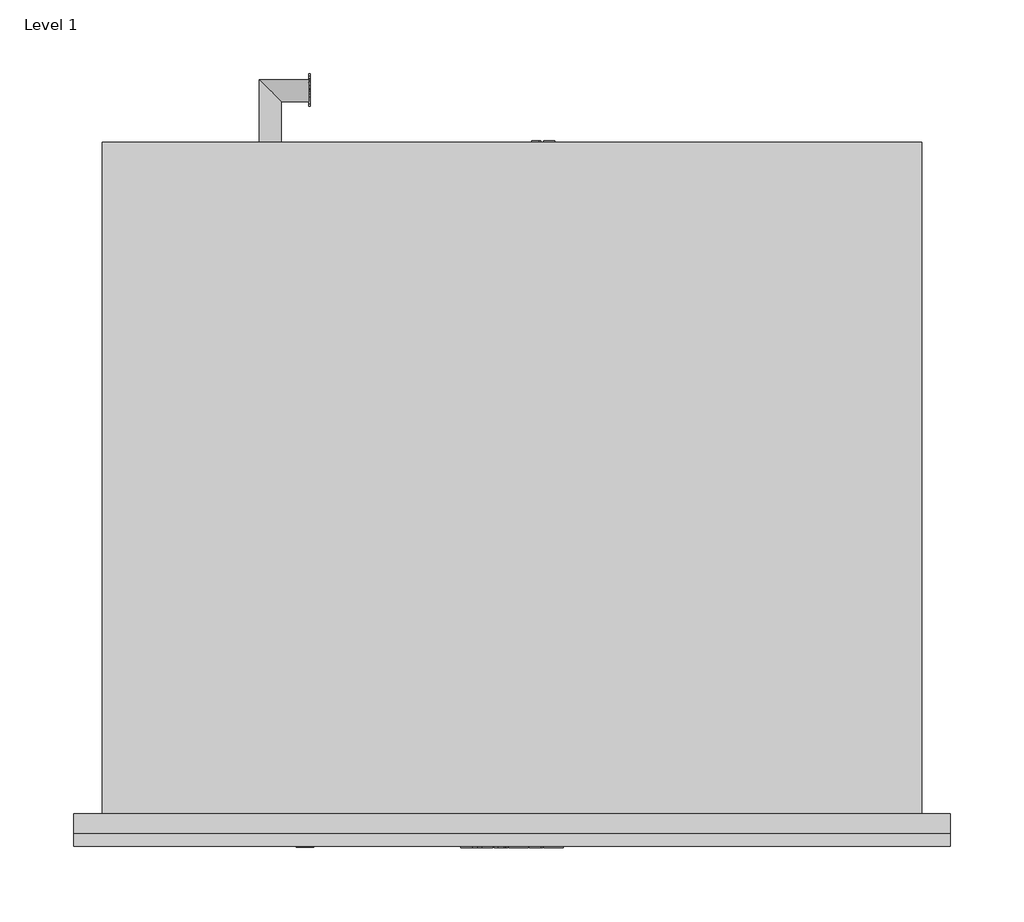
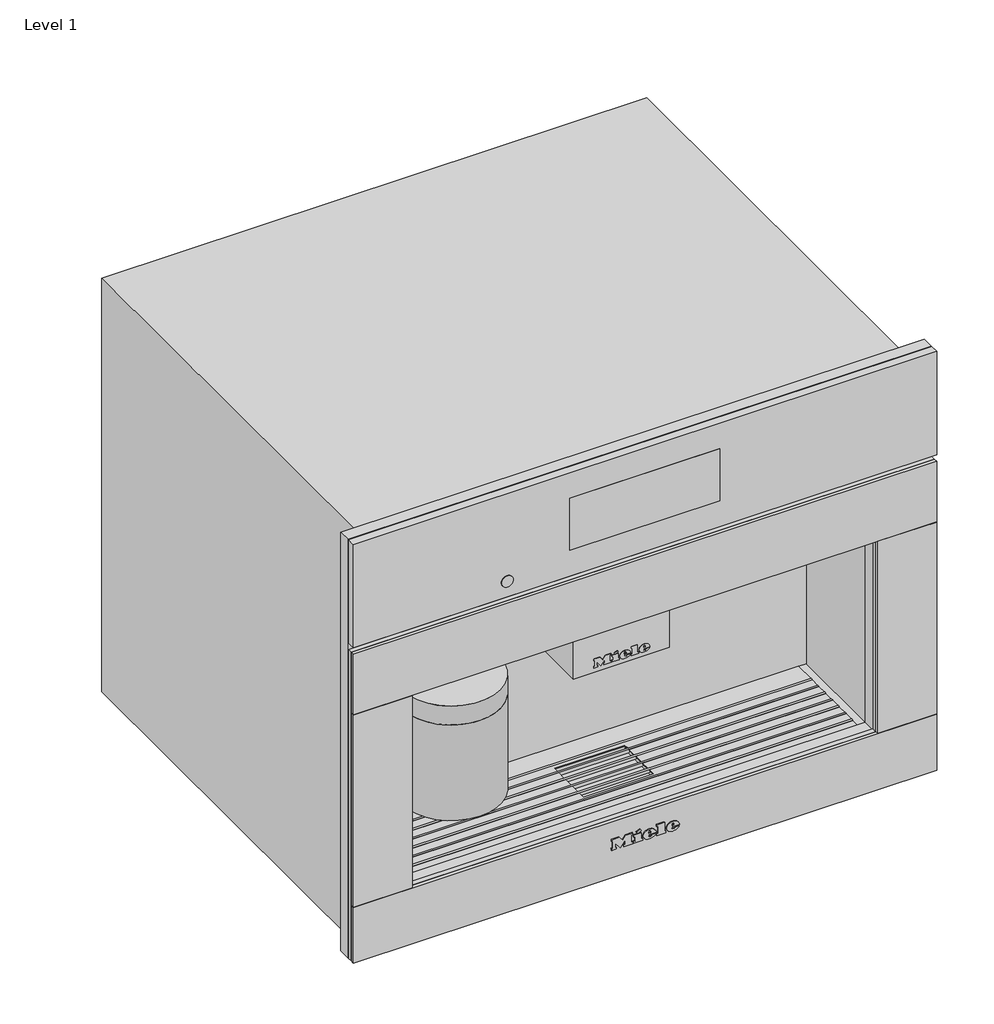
# One storey: 1 proxy.
"""IFC4 building model written with IfcOpenShell, lengths in millimetres."""

from ifc_helpers import new_model, si_unit, origin, place, context, project, spatial, transform, mapped, element, save
from components import specialty_equipment_ed553445

model = new_model("IFC4")

# Units and contexts
model_context = context("Model", 3, world=origin())
ifc_project = project(units=[si_unit("LENGTHUNIT", "METRE", prefix="MILLI")], contexts=[model_context])

# Site, building, storey
site = spatial("IfcSite", under=ifc_project)
building = spatial("IfcBuilding", under=site)
storey = spatial("IfcBuildingStorey", under=building, Name="Level 1", Elevation=0.0)

# Proxy
placement = place(None, origin())
specialty_equipment_shape = specialty_equipment_ed553445(model_context)
element("IfcBuildingElementProxy", 1, Name="11733910_CDN_CVA7845_GRGR : 29784530_CDN_11733910_CVA7845_GRGR", ObjectType="11733910_CDN_CVA7845_GRGR : 29784530_CDN_11733910_CVA7845_GRGR", at=placement, inside=storey, context=model_context, shape_type="MappedRepresentation", body=[
    mapped(specialty_equipment_shape, transform((0.0, 0.0, 0.0), x_axis=(1.0, 0.0, 0.0), y_axis=(0.0, 1.0, 0.0), z_axis=(0.0, 0.0, 1.0))),
])

save(model, "model.ifc")
